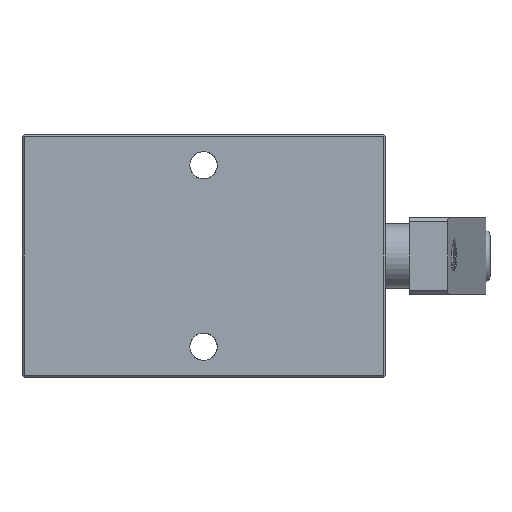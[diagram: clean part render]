
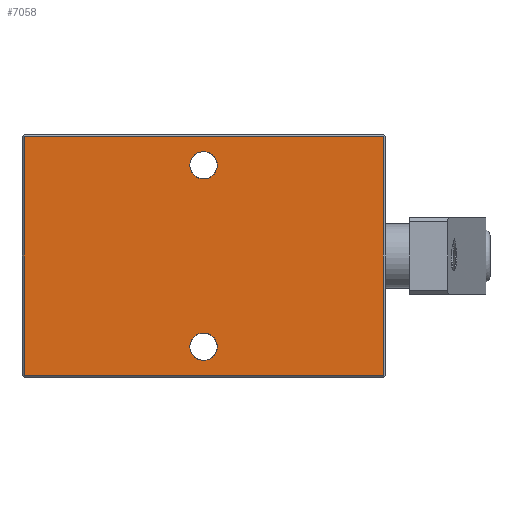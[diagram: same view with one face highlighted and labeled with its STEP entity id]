
A CAD part, front view. The second image highlights one B-rep face of the part: STEP entity #7058.
In plain terms, the highlighted planar face has unit normal (0, -1, 0).
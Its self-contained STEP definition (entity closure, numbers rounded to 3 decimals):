
#177=FACE_BOUND('',#957,.T.);
#178=FACE_BOUND('',#958,.T.);
#234=PLANE('',#7567);
#309=CIRCLE('',#7568,3.4);
#310=CIRCLE('',#7569,3.4);
#311=CIRCLE('',#7570,3.4);
#312=CIRCLE('',#7571,3.4);
#563=FACE_OUTER_BOUND('',#956,.T.);
#956=EDGE_LOOP('',(#5151,#5152,#5153,#5154));
#957=EDGE_LOOP('',(#5155,#5156));
#958=EDGE_LOOP('',(#5157,#5158));
#1988=LINE('',#21512,#2408);
#1990=LINE('',#21516,#2410);
#1993=LINE('',#21522,#2413);
#1994=LINE('',#21523,#2414);
#2408=VECTOR('',#8373,89.);
#2410=VECTOR('',#8377,59.);
#2413=VECTOR('',#8382,59.);
#2414=VECTOR('',#8383,89.);
#3010=VERTEX_POINT('',#21509);
#3011=VERTEX_POINT('',#21511);
#3012=VERTEX_POINT('',#21515);
#3014=VERTEX_POINT('',#21521);
#3015=VERTEX_POINT('',#21524);
#3016=VERTEX_POINT('',#21525);
#3017=VERTEX_POINT('',#21528);
#3018=VERTEX_POINT('',#21529);
#3883=EDGE_CURVE('',#3010,#3011,#1988,.T.);
#3885=EDGE_CURVE('',#3011,#3012,#1990,.T.);
#3888=EDGE_CURVE('',#3014,#3010,#1993,.T.);
#3889=EDGE_CURVE('',#3014,#3012,#1994,.T.);
#3890=EDGE_CURVE('',#3015,#3016,#309,.T.);
#3891=EDGE_CURVE('',#3016,#3015,#310,.T.);
#3892=EDGE_CURVE('',#3017,#3018,#311,.T.);
#3893=EDGE_CURVE('',#3018,#3017,#312,.T.);
#5151=ORIENTED_EDGE('',*,*,#3888,.F.);
#5152=ORIENTED_EDGE('',*,*,#3889,.T.);
#5153=ORIENTED_EDGE('',*,*,#3885,.F.);
#5154=ORIENTED_EDGE('',*,*,#3883,.F.);
#5155=ORIENTED_EDGE('',*,*,#3890,.T.);
#5156=ORIENTED_EDGE('',*,*,#3891,.T.);
#5157=ORIENTED_EDGE('',*,*,#3892,.T.);
#5158=ORIENTED_EDGE('',*,*,#3893,.T.);
#7058=ADVANCED_FACE('',(#563,#177,#178),#234,.T.);
#7567=AXIS2_PLACEMENT_3D('',#21520,#8380,#8381);
#7568=AXIS2_PLACEMENT_3D('',#21526,#8384,#8385);
#7569=AXIS2_PLACEMENT_3D('',#21527,#8386,#8387);
#7570=AXIS2_PLACEMENT_3D('',#21530,#8388,#8389);
#7571=AXIS2_PLACEMENT_3D('',#21531,#8390,#8391);
#8373=DIRECTION('',(-1.,0.,0.));
#8377=DIRECTION('',(0.,0.,1.));
#8380=DIRECTION('center_axis',(0.,-1.,0.));
#8381=DIRECTION('ref_axis',(0.,0.,-1.));
#8382=DIRECTION('',(0.,0.,-1.));
#8383=DIRECTION('',(-1.,0.,0.));
#8384=DIRECTION('center_axis',(0.,1.,0.));
#8385=DIRECTION('ref_axis',(0.,0.,1.));
#8386=DIRECTION('center_axis',(0.,1.,0.));
#8387=DIRECTION('ref_axis',(0.,0.,1.));
#8388=DIRECTION('center_axis',(0.,1.,0.));
#8389=DIRECTION('ref_axis',(0.,0.,1.));
#8390=DIRECTION('center_axis',(0.,1.,0.));
#8391=DIRECTION('ref_axis',(0.,0.,1.));
#21509=CARTESIAN_POINT('',(89.5,-20.,-29.5));
#21511=CARTESIAN_POINT('',(0.5,-20.,-29.5));
#21512=CARTESIAN_POINT('',(89.5,-20.,-29.5));
#21515=CARTESIAN_POINT('',(0.5,-20.,29.5));
#21516=CARTESIAN_POINT('',(0.5,-20.,-29.5));
#21520=CARTESIAN_POINT('Origin',(0.,-20.,30.));
#21521=CARTESIAN_POINT('',(89.5,-20.,29.5));
#21522=CARTESIAN_POINT('',(89.5,-20.,29.5));
#21523=CARTESIAN_POINT('',(89.5,-20.,29.5));
#21524=CARTESIAN_POINT('',(45.,-20.,-19.1));
#21525=CARTESIAN_POINT('',(45.,-20.,-25.9));
#21526=CARTESIAN_POINT('Origin',(45.,-20.,-22.5));
#21527=CARTESIAN_POINT('Origin',(45.,-20.,-22.5));
#21528=CARTESIAN_POINT('',(45.,-20.,25.9));
#21529=CARTESIAN_POINT('',(45.,-20.,19.1));
#21530=CARTESIAN_POINT('Origin',(45.,-20.,22.5));
#21531=CARTESIAN_POINT('Origin',(45.,-20.,22.5));
